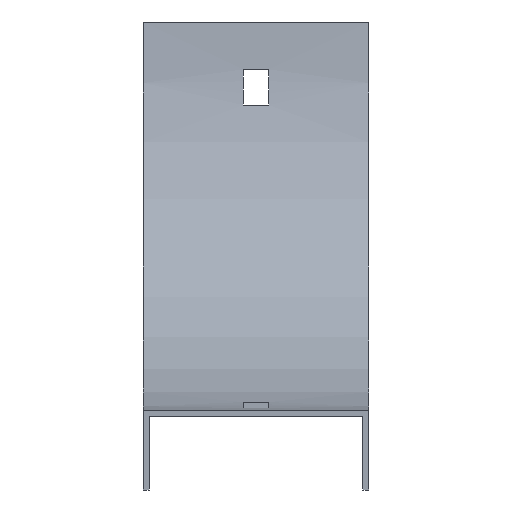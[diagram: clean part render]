
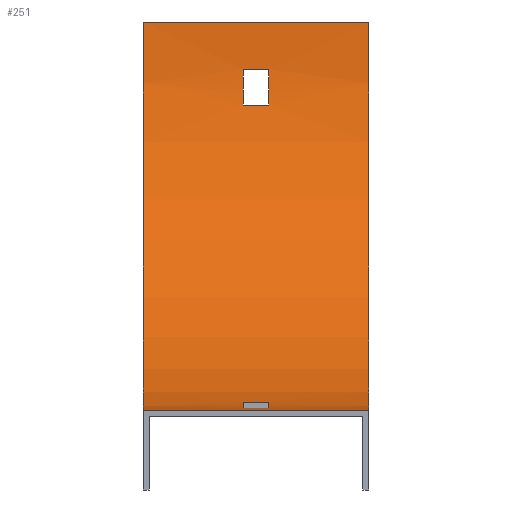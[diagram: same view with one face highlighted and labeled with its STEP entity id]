
A CAD part, top view. The second image highlights one B-rep face of the part: STEP entity #251.
In plain terms, the highlighted cylindrical face has radius 98.5 mm (diameter 197 mm), a partial arc.
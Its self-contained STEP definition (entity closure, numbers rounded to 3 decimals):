
#2 = EDGE_CURVE ( 'NONE', #387, #109, #140, .T. ) ;
#8 = LINE ( 'NONE', #293, #181 ) ;
#10 = CARTESIAN_POINT ( 'NONE',  ( -28.5, 0., 0. ) ) ;
#11 = VERTEX_POINT ( 'NONE', #191 ) ;
#21 = CIRCLE ( 'NONE', #170, 98.5 ) ;
#29 = EDGE_CURVE ( 'NONE', #11, #99, #400, .T. ) ;
#31 = DIRECTION ( 'NONE',  ( -1., 0., 0. ) ) ;
#34 = CARTESIAN_POINT ( 'NONE',  ( -3.25, 98.5, 0. ) ) ;
#35 = CARTESIAN_POINT ( 'NONE',  ( 3.25, 98.5, 0. ) ) ;
#42 = FACE_OUTER_BOUND ( 'NONE', #466, .T. ) ;
#47 = CARTESIAN_POINT ( 'NONE',  ( 3.25, 0.734, -12. ) ) ;
#48 = ORIENTED_EDGE ( 'NONE', *, *, #2, .F. ) ;
#51 = EDGE_CURVE ( 'NONE', #109, #11, #575, .T. ) ;
#55 = AXIS2_PLACEMENT_3D ( 'NONE', #457, #220, #80 ) ;
#68 = DIRECTION ( 'NONE',  ( 0., 1., 0. ) ) ;
#74 = AXIS2_PLACEMENT_3D ( 'NONE', #590, #300, #500 ) ;
#75 = AXIS2_PLACEMENT_3D ( 'NONE', #98, #286, #133 ) ;
#80 = DIRECTION ( 'NONE',  ( 0., 0., 1. ) ) ;
#82 = EDGE_CURVE ( 'NONE', #278, #120, #121, .T. ) ;
#88 = AXIS2_PLACEMENT_3D ( 'NONE', #34, #312, #424 ) ;
#98 = CARTESIAN_POINT ( 'NONE',  ( 28.5, 98.5, 0. ) ) ;
#99 = VERTEX_POINT ( 'NONE', #160 ) ;
#100 = DIRECTION ( 'NONE',  ( 1., 0., 0. ) ) ;
#108 = CARTESIAN_POINT ( 'NONE',  ( 28.5, 77.5, -96.235 ) ) ;
#109 = VERTEX_POINT ( 'NONE', #486 ) ;
#114 = EDGE_CURVE ( 'NONE', #243, #283, #8, .T. ) ;
#118 = EDGE_LOOP ( 'NONE', ( #556, #375, #474, #337 ) ) ;
#120 = VERTEX_POINT ( 'NONE', #193 ) ;
#121 = CIRCLE ( 'NONE', #74, 98.5 ) ;
#126 = CARTESIAN_POINT ( 'NONE',  ( -3.25, 2.265, -21. ) ) ;
#133 = DIRECTION ( 'NONE',  ( 0., 0., 1. ) ) ;
#136 = EDGE_CURVE ( 'NONE', #278, #391, #163, .T. ) ;
#140 = LINE ( 'NONE', #470, #403 ) ;
#145 = DIRECTION ( 'NONE',  ( -1., 0., 0. ) ) ;
#148 = VERTEX_POINT ( 'NONE', #168 ) ;
#151 = CARTESIAN_POINT ( 'NONE',  ( -3.25, 98.5, 0. ) ) ;
#158 = CIRCLE ( 'NONE', #88, 98.5 ) ;
#160 = CARTESIAN_POINT ( 'NONE',  ( 3.25, 77.5, -96.235 ) ) ;
#163 = LINE ( 'NONE', #508, #558 ) ;
#168 = CARTESIAN_POINT ( 'NONE',  ( 3.25, 2.265, -21. ) ) ;
#170 = AXIS2_PLACEMENT_3D ( 'NONE', #35, #265, #503 ) ;
#176 = DIRECTION ( 'NONE',  ( 0., 0., 1. ) ) ;
#181 = VECTOR ( 'NONE', #145, 1000. ) ;
#191 = CARTESIAN_POINT ( 'NONE',  ( -3.25, 77.5, -96.235 ) ) ;
#193 = CARTESIAN_POINT ( 'NONE',  ( 28.5, 0., 0. ) ) ;
#220 = DIRECTION ( 'NONE',  ( 1., 0., 0. ) ) ;
#226 = EDGE_CURVE ( 'NONE', #148, #243, #21, .T. ) ;
#242 = CIRCLE ( 'NONE', #589, 98.5 ) ;
#243 = VERTEX_POINT ( 'NONE', #47 ) ;
#248 = CARTESIAN_POINT ( 'NONE',  ( 28.5, 98.5, -98.5 ) ) ;
#251 = ADVANCED_FACE ( 'NONE', ( #42, #605, #521 ), #382, .F. ) ;
#257 = DIRECTION ( 'NONE',  ( 1., 0., 0. ) ) ;
#265 = DIRECTION ( 'NONE',  ( -1., 0., 0. ) ) ;
#266 = CIRCLE ( 'NONE', #55, 98.5 ) ;
#278 = VERTEX_POINT ( 'NONE', #248 ) ;
#280 = ORIENTED_EDGE ( 'NONE', *, *, #450, .T. ) ;
#283 = VERTEX_POINT ( 'NONE', #353 ) ;
#286 = DIRECTION ( 'NONE',  ( -1., 0., 0. ) ) ;
#293 = CARTESIAN_POINT ( 'NONE',  ( 28.5, 0.734, -12. ) ) ;
#300 = DIRECTION ( 'NONE',  ( -1., 0., 0. ) ) ;
#312 = DIRECTION ( 'NONE',  ( 1., 0., 0. ) ) ;
#324 = VERTEX_POINT ( 'NONE', #10 ) ;
#337 = ORIENTED_EDGE ( 'NONE', *, *, #226, .T. ) ;
#353 = CARTESIAN_POINT ( 'NONE',  ( -3.25, 0.734, -12. ) ) ;
#356 = EDGE_LOOP ( 'NONE', ( #388, #48, #483, #579 ) ) ;
#360 = DIRECTION ( 'NONE',  ( -1., 0., 0. ) ) ;
#375 = ORIENTED_EDGE ( 'NONE', *, *, #385, .T. ) ;
#377 = EDGE_CURVE ( 'NONE', #583, #148, #490, .T. ) ;
#382 = CYLINDRICAL_SURFACE ( 'NONE', #75, 98.5 ) ;
#385 = EDGE_CURVE ( 'NONE', #283, #583, #158, .T. ) ;
#387 = VERTEX_POINT ( 'NONE', #459 ) ;
#388 = ORIENTED_EDGE ( 'NONE', *, *, #51, .F. ) ;
#391 = VERTEX_POINT ( 'NONE', #406 ) ;
#400 = LINE ( 'NONE', #108, #405 ) ;
#403 = VECTOR ( 'NONE', #435, 1000. ) ;
#405 = VECTOR ( 'NONE', #100, 1000. ) ;
#406 = CARTESIAN_POINT ( 'NONE',  ( -28.5, 98.5, -98.5 ) ) ;
#418 = LINE ( 'NONE', #597, #484 ) ;
#424 = DIRECTION ( 'NONE',  ( 0., 0., 1. ) ) ;
#435 = DIRECTION ( 'NONE',  ( -1., 0., 0. ) ) ;
#443 = AXIS2_PLACEMENT_3D ( 'NONE', #151, #360, #68 ) ;
#444 = DIRECTION ( 'NONE',  ( -1., 0., 0. ) ) ;
#450 = EDGE_CURVE ( 'NONE', #391, #324, #242, .T. ) ;
#457 = CARTESIAN_POINT ( 'NONE',  ( 3.25, 98.5, 0. ) ) ;
#459 = CARTESIAN_POINT ( 'NONE',  ( 3.25, 86.5, -97.766 ) ) ;
#466 = EDGE_LOOP ( 'NONE', ( #280, #552, #604, #522 ) ) ;
#470 = CARTESIAN_POINT ( 'NONE',  ( 28.5, 86.5, -97.766 ) ) ;
#474 = ORIENTED_EDGE ( 'NONE', *, *, #377, .T. ) ;
#483 = ORIENTED_EDGE ( 'NONE', *, *, #544, .F. ) ;
#484 = VECTOR ( 'NONE', #444, 1000. ) ;
#486 = CARTESIAN_POINT ( 'NONE',  ( -3.25, 86.5, -97.766 ) ) ;
#490 = LINE ( 'NONE', #581, #598 ) ;
#500 = DIRECTION ( 'NONE',  ( 0., 0., 1. ) ) ;
#503 = DIRECTION ( 'NONE',  ( 0., 0., -1. ) ) ;
#504 = DIRECTION ( 'NONE',  ( -1., 0., 0. ) ) ;
#508 = CARTESIAN_POINT ( 'NONE',  ( 28.5, 98.5, -98.5 ) ) ;
#521 = FACE_BOUND ( 'NONE', #356, .T. ) ;
#522 = ORIENTED_EDGE ( 'NONE', *, *, #136, .T. ) ;
#544 = EDGE_CURVE ( 'NONE', #99, #387, #266, .T. ) ;
#552 = ORIENTED_EDGE ( 'NONE', *, *, #584, .F. ) ;
#556 = ORIENTED_EDGE ( 'NONE', *, *, #114, .T. ) ;
#558 = VECTOR ( 'NONE', #31, 1000. ) ;
#575 = CIRCLE ( 'NONE', #443, 98.5 ) ;
#579 = ORIENTED_EDGE ( 'NONE', *, *, #29, .F. ) ;
#581 = CARTESIAN_POINT ( 'NONE',  ( 28.5, 2.265, -21. ) ) ;
#583 = VERTEX_POINT ( 'NONE', #126 ) ;
#584 = EDGE_CURVE ( 'NONE', #120, #324, #418, .T. ) ;
#589 = AXIS2_PLACEMENT_3D ( 'NONE', #600, #504, #176 ) ;
#590 = CARTESIAN_POINT ( 'NONE',  ( 28.5, 98.5, 0. ) ) ;
#597 = CARTESIAN_POINT ( 'NONE',  ( 28.5, 0., 0. ) ) ;
#598 = VECTOR ( 'NONE', #257, 1000. ) ;
#600 = CARTESIAN_POINT ( 'NONE',  ( -28.5, 98.5, 0. ) ) ;
#604 = ORIENTED_EDGE ( 'NONE', *, *, #82, .F. ) ;
#605 = FACE_BOUND ( 'NONE', #118, .T. ) ;
